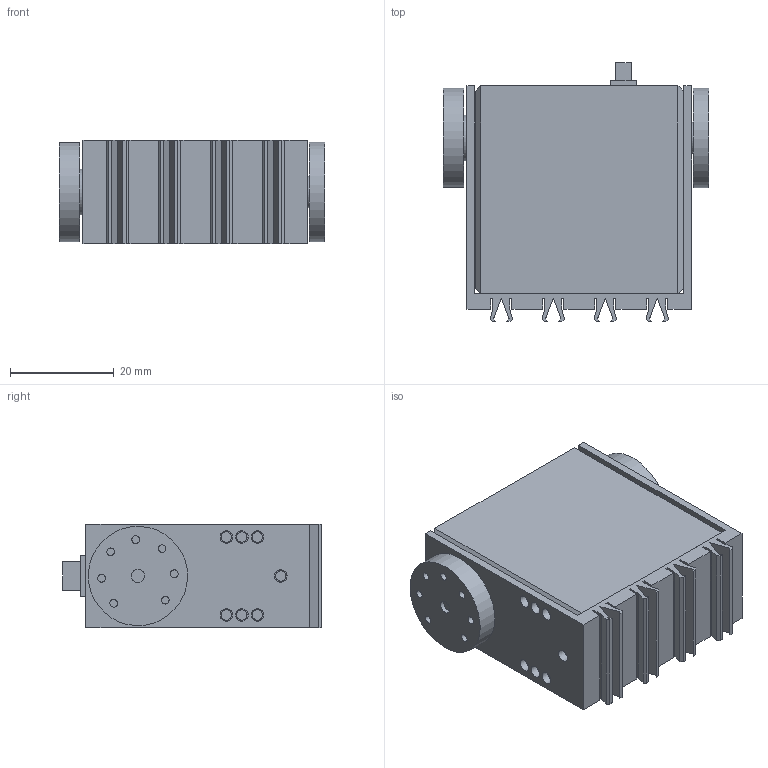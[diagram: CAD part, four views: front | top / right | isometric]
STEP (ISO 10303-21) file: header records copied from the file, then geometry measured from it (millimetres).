
FILE_DESCRIPTION(/* description */ (''),/* implementation_level */ '2;1');
FILE_NAME(/* name */ 'C:/Users/priba/Documents/Temp/mrm-rd-5606hb-300Holder.step',/* time_stamp */ '2020-04-27T09:24:47+02:00',/* author */ (''),/* organization */ (''),/* preprocessor_version */ 'ST-DEVELOPER v18.1',/* originating_system */ 'Autodesk Translation Framework v9.2.0.1227',/* authorisation */ '');
FILE_SCHEMA (('AUTOMOTIVE_DESIGN { 1 0 10303 214 3 1 1 }'));
Length unit declared in the file: millimetre
Products named in the file (5): mrm-rd-5606hb-300Holder; mrm-rd-5606hb-300; ServoBody; TopHorn; BottomHorn
Assembly tree (4 placements, depth 3):
  mrm-rd-5606hb-300Holder
    mrm-rd-5606hb-300
      ServoBody
      TopHorn
      BottomHorn
Bounding box: 51.15 x 49.81 x 20 mm (x, y, z)
Volume: 38335.8 mm3; surface area: 16014.2 mm2
Topology: 4 solids, 4 shells, 193 faces, 483 edges, 324 vertices
Faces by surface type: plane 134, cylinder 59
Full cylindrical faces by diameter (mm): 1.5 x15, 2 x15, 2.4 x15, 2.5 x3, 5.6 x1, 5.75 x1, 6 x2, 8.8 x1, 12.3 x2, 12.7 x2, 19.1 x1, 19.2 x1
Entity records: 6047 total; most frequent: DIRECTION 1019, CARTESIAN_POINT 1009, ORIENTED_EDGE 966, EDGE_CURVE 483, LINE 351, VECTOR 351, AXIS2_PLACEMENT_3D 334, VERTEX_POINT 324
